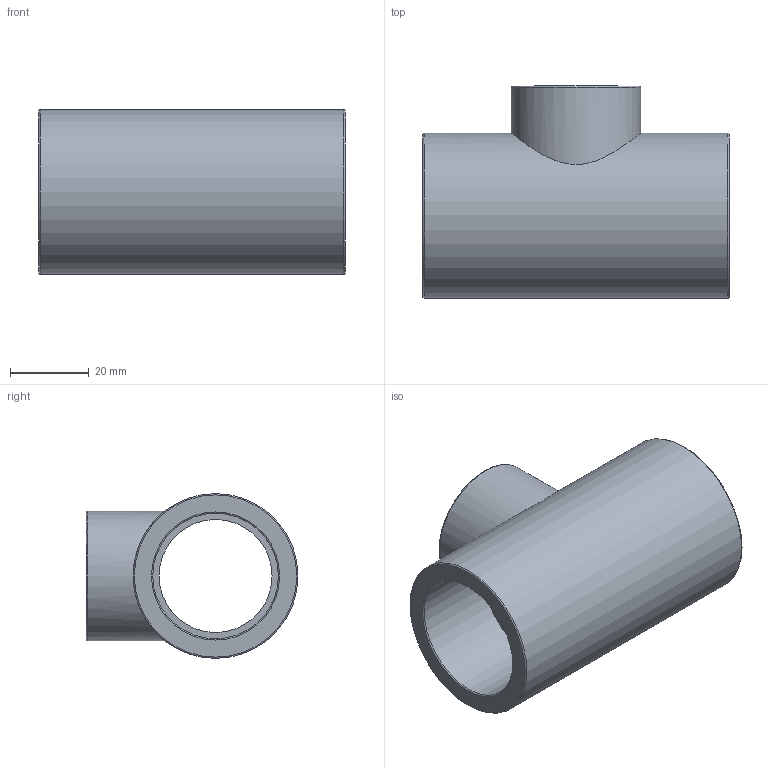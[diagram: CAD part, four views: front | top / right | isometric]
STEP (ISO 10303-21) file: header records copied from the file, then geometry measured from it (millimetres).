
FILE_DESCRIPTION(/* description */ ('PLASSON REDUCER TEE - CEMENT PVC 32-20-32'),/* implementation_level */ '2;1');
FILE_NAME(/* name */ 'C:\Dropbox\KIMPROJECTS-Inventor\99-16-3568-Processing\PVC Catalog 2017\051400\051400032020.ipt.stp',/* time_stamp */ '2017-12-07T16:00:08+02:00',/* author */ ('KIM'),/* organization */ (''),/* preprocessor_version */ 'ST-DEVELOPER v15.6',/* originating_system */ 'Autodesk Inventor 2015',/* authorisation */ '');
FILE_SCHEMA (('AUTOMOTIVE_DESIGN { 1 0 10303 214 3 1 1 }'));
Length unit declared in the file: millimetre
Products named in the file (1): 051400032020
Bounding box: 78 x 54 x 42 mm (x, y, z)
Volume: 56422.9 mm3; surface area: 21433.1 mm2
Topology: 1 solids, 1 shells, 19 faces, 39 edges, 24 vertices
Faces by surface type: cylinder 7, torus 6, plane 6
Full cylindrical faces by diameter (mm): 18 x1, 20 x1, 28.8 x1, 32 x2, 33 x1, 42 x1
Entity records: 518 total; most frequent: CARTESIAN_POINT 158, DIRECTION 76, EDGE_LOOP 40, ORIENTED_EDGE 40, AXIS2_PLACEMENT_3D 38, FACE_BOUND 21, VERTEX_POINT 20, EDGE_CURVE 20
